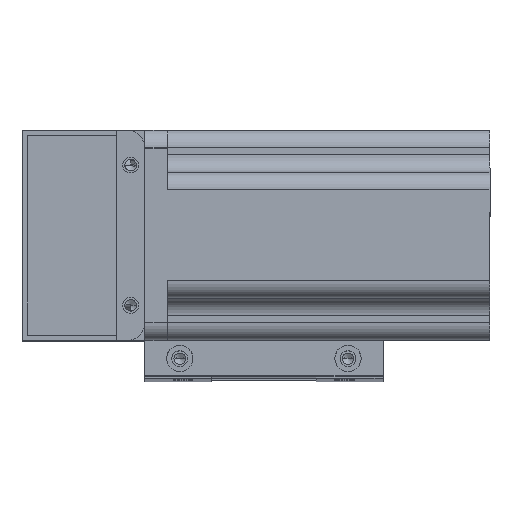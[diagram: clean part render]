
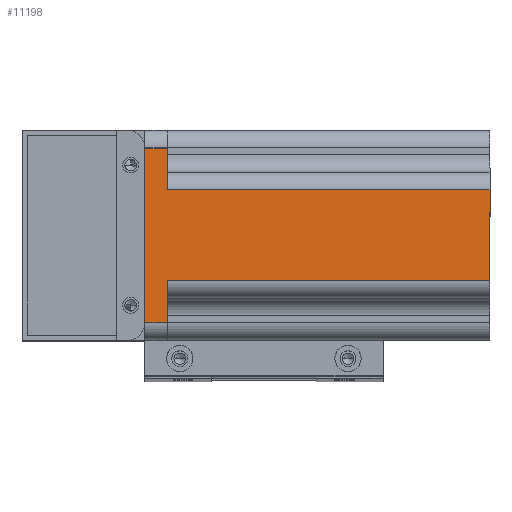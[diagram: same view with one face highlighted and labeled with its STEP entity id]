
A CAD part, top view. The second image highlights one B-rep face of the part: STEP entity #11198.
In plain terms, the highlighted planar face has unit normal (0, 0, 1) as drawn and (-1, 0, 0) by its records, which use the part's own axes.
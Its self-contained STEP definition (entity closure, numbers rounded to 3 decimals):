
#523 = VERTEX_POINT ( 'NONE', #4269 ) ;
#741 = VECTOR ( 'NONE', #16667, 1000. ) ;
#2072 = EDGE_CURVE ( 'NONE', #21428, #14141, #7865, .T. ) ;
#2157 = EDGE_CURVE ( 'NONE', #14778, #24316, #4821, .T. ) ;
#2161 = LINE ( 'NONE', #10141, #3133 ) ;
#2315 = ORIENTED_EDGE ( 'NONE', *, *, #5077, .T. ) ;
#2572 = EDGE_CURVE ( 'NONE', #8000, #21428, #2161, .T. ) ;
#3133 = VECTOR ( 'NONE', #27798, 1000. ) ;
#3665 = ORIENTED_EDGE ( 'NONE', *, *, #2072, .T. ) ;
#3736 = CARTESIAN_POINT ( 'NONE',  ( -30., 13., 6.5 ) ) ;
#3860 = ORIENTED_EDGE ( 'NONE', *, *, #13408, .F. ) ;
#4269 = CARTESIAN_POINT ( 'NONE',  ( -30., -13., 0. ) ) ;
#4488 = FACE_OUTER_BOUND ( 'NONE', #6489, .T. ) ;
#4676 = CARTESIAN_POINT ( 'NONE',  ( -30., -25., 6.5 ) ) ;
#4821 = LINE ( 'NONE', #4676, #6199 ) ;
#5077 = EDGE_CURVE ( 'NONE', #27070, #523, #5994, .T. ) ;
#5278 = CARTESIAN_POINT ( 'NONE',  ( -30., 25., 6.5 ) ) ;
#5994 = LINE ( 'NONE', #21185, #9694 ) ;
#6199 = VECTOR ( 'NONE', #26329, 1000. ) ;
#6233 = PLANE ( 'NONE',  #15325 ) ;
#6257 = LINE ( 'NONE', #7731, #23463 ) ;
#6288 = CARTESIAN_POINT ( 'NONE',  ( -30., -25., 0. ) ) ;
#6489 = EDGE_LOOP ( 'NONE', ( #17719, #2315, #9926, #25130, #3860, #6776, #3665, #18220 ) ) ;
#6776 = ORIENTED_EDGE ( 'NONE', *, *, #2572, .T. ) ;
#7385 = VECTOR ( 'NONE', #23064, 1000. ) ;
#7731 = CARTESIAN_POINT ( 'NONE',  ( -30., -25., 6.5 ) ) ;
#7865 = LINE ( 'NONE', #8486, #13609 ) ;
#8000 = VERTEX_POINT ( 'NONE', #5278 ) ;
#8486 = CARTESIAN_POINT ( 'NONE',  ( -30., -25., 0. ) ) ;
#8985 = CARTESIAN_POINT ( 'NONE',  ( -30., -25., 6.5 ) ) ;
#9209 = LINE ( 'NONE', #21134, #741 ) ;
#9347 = VERTEX_POINT ( 'NONE', #12699 ) ;
#9694 = VECTOR ( 'NONE', #13087, 1000. ) ;
#9926 = ORIENTED_EDGE ( 'NONE', *, *, #23808, .T. ) ;
#10084 = LINE ( 'NONE', #3736, #7385 ) ;
#10141 = CARTESIAN_POINT ( 'NONE',  ( -30., 25., 6.5 ) ) ;
#11198 = ADVANCED_FACE ( 'NONE', ( #4488 ), #6233, .F. ) ;
#11437 = DIRECTION ( 'NONE',  ( 0., -1., 0. ) ) ;
#12699 = CARTESIAN_POINT ( 'NONE',  ( -30., 13., -92. ) ) ;
#13087 = DIRECTION ( 'NONE',  ( 0., 0., 1. ) ) ;
#13408 = EDGE_CURVE ( 'NONE', #8000, #14778, #6257, .T. ) ;
#13609 = VECTOR ( 'NONE', #19094, 1000. ) ;
#13855 = DIRECTION ( 'NONE',  ( 0., 0., -1. ) ) ;
#14024 = EDGE_CURVE ( 'NONE', #14141, #9347, #10084, .T. ) ;
#14141 = VERTEX_POINT ( 'NONE', #27479 ) ;
#14722 = CARTESIAN_POINT ( 'NONE',  ( -30., 25., 0. ) ) ;
#14778 = VERTEX_POINT ( 'NONE', #8985 ) ;
#15325 = AXIS2_PLACEMENT_3D ( 'NONE', #27917, #22451, #13855 ) ;
#16667 = DIRECTION ( 'NONE',  ( 0., 1., 0. ) ) ;
#17627 = CARTESIAN_POINT ( 'NONE',  ( -30., -25., 0. ) ) ;
#17719 = ORIENTED_EDGE ( 'NONE', *, *, #24795, .F. ) ;
#18220 = ORIENTED_EDGE ( 'NONE', *, *, #14024, .T. ) ;
#19094 = DIRECTION ( 'NONE',  ( 0., -1., 0. ) ) ;
#19333 = CARTESIAN_POINT ( 'NONE',  ( -30., -13., -92. ) ) ;
#21134 = CARTESIAN_POINT ( 'NONE',  ( -30., -18., -92. ) ) ;
#21185 = CARTESIAN_POINT ( 'NONE',  ( -30., -13., 6.5 ) ) ;
#21428 = VERTEX_POINT ( 'NONE', #14722 ) ;
#22418 = DIRECTION ( 'NONE',  ( 0., -1., 0. ) ) ;
#22451 = DIRECTION ( 'NONE',  ( 1., 0., 0. ) ) ;
#23064 = DIRECTION ( 'NONE',  ( 0., 0., -1. ) ) ;
#23463 = VECTOR ( 'NONE', #22418, 1000. ) ;
#23808 = EDGE_CURVE ( 'NONE', #523, #24316, #26731, .T. ) ;
#24316 = VERTEX_POINT ( 'NONE', #6288 ) ;
#24795 = EDGE_CURVE ( 'NONE', #27070, #9347, #9209, .T. ) ;
#25130 = ORIENTED_EDGE ( 'NONE', *, *, #2157, .F. ) ;
#25771 = VECTOR ( 'NONE', #11437, 1000. ) ;
#26329 = DIRECTION ( 'NONE',  ( 0., 0., -1. ) ) ;
#26731 = LINE ( 'NONE', #17627, #25771 ) ;
#27070 = VERTEX_POINT ( 'NONE', #19333 ) ;
#27479 = CARTESIAN_POINT ( 'NONE',  ( -30., 13., 0. ) ) ;
#27798 = DIRECTION ( 'NONE',  ( 0., 0., -1. ) ) ;
#27917 = CARTESIAN_POINT ( 'NONE',  ( -30., -25., 6.5 ) ) ;
